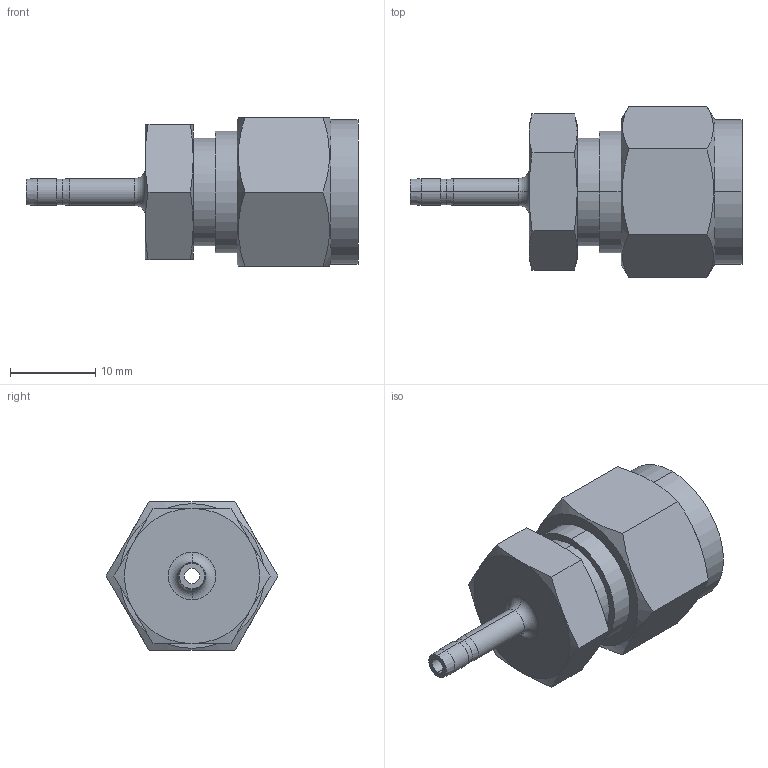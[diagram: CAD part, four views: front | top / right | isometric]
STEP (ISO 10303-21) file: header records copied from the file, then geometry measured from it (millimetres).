
FILE_DESCRIPTION (( 'STEP AP203' ), '1' );
FILE_NAME ('DRE06-02 SS.STEP', '2009-09-08T08:37:48', ( ' ' ), ( '' ), 'SwSTEP 2.0', 'SolidWorks 2008', '' );
FILE_SCHEMA (( 'CONFIG_CONTROL_DESIGN' ));
Length unit declared in the file: millimetre
Products named in the file (1): DRE06-02 SS
Bounding box: 39 x 20.16 x 17.46 mm (x, y, z)
Volume: 4268.5 mm3; surface area: 2849.8 mm2
Topology: 1 solids, 1 shells, 63 faces, 138 edges, 82 vertices
Faces by surface type: cone 24, plane 19, cylinder 18, torus 2
Entity records: 1925 total; most frequent: CARTESIAN_POINT 500, DIRECTION 282, ORIENTED_EDGE 276, EDGE_CURVE 138, AXIS2_PLACEMENT_3D 120, VERTEX_POINT 82, EDGE_LOOP 70, ADVANCED_FACE 63
